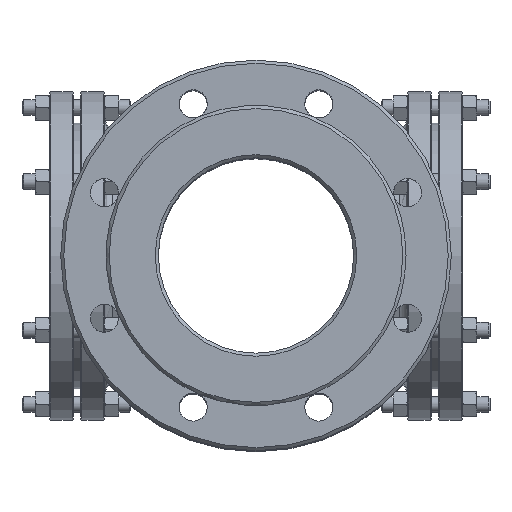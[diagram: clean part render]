
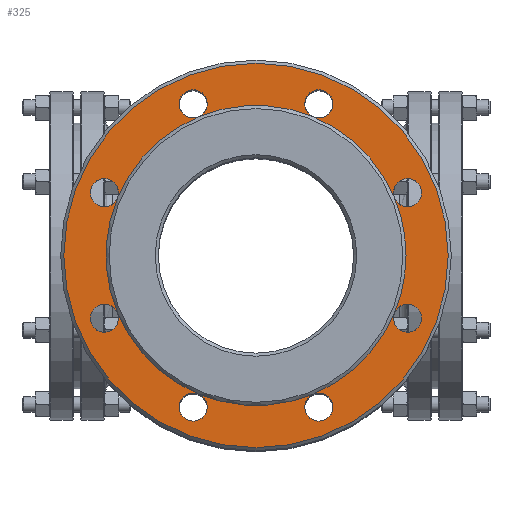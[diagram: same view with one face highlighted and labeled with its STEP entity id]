
A CAD part, top view. The second image highlights one B-rep face of the part: STEP entity #325.
In plain terms, the highlighted planar face has unit normal (0, 0, 1).
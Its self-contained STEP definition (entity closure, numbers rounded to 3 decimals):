
#325=ADVANCED_FACE('',(#3280,#3282,#3284,#3286,#3288,#3290,#3292,#3294,#3296,#3298),
#3300,.T.);
#3280=FACE_BOUND('',#3281,.T.);
#3281=EDGE_LOOP('',(#10412));
#3282=FACE_BOUND('',#3283,.T.);
#3283=EDGE_LOOP('',(#10413));
#3284=FACE_BOUND('',#3285,.T.);
#3285=EDGE_LOOP('',(#10414,#10415));
#3286=FACE_BOUND('',#3287,.T.);
#3287=EDGE_LOOP('',(#10416,#10417,#10418,#10419,#10420,#10421,#10422,#10423));
#3288=FACE_BOUND('',#3289,.T.);
#3289=EDGE_LOOP('',(#10424,#10425));
#3290=FACE_BOUND('',#3291,.T.);
#3291=EDGE_LOOP('',(#10426,#10427));
#3292=FACE_BOUND('',#3293,.T.);
#3293=EDGE_LOOP('',(#10428,#10429));
#3294=FACE_BOUND('',#3295,.T.);
#3295=EDGE_LOOP('',(#10430,#10431));
#3296=FACE_BOUND('',#3297,.T.);
#3297=EDGE_LOOP('',(#10432,#10433));
#3298=FACE_BOUND('',#3299,.T.);
#3299=EDGE_LOOP('',(#10434,#10435));
#3300=PLANE('',#3301);
#3301=AXIS2_PLACEMENT_3D('',#3302,#3303,#3304);
#3302=CARTESIAN_POINT('',(0.,0.,198.));
#3303=DIRECTION('',(0.,0.,1.));
#3304=DIRECTION('',(1.,0.,0.));
#10412=ORIENTED_EDGE('',*,*,#13539,.T.);
#10413=ORIENTED_EDGE('',*,*,#13540,.T.);
#10414=ORIENTED_EDGE('',*,*,#13541,.T.);
#10415=ORIENTED_EDGE('',*,*,#13542,.T.);
#10416=ORIENTED_EDGE('',*,*,#13455,.T.);
#10417=ORIENTED_EDGE('',*,*,#13454,.T.);
#10418=ORIENTED_EDGE('',*,*,#13453,.T.);
#10419=ORIENTED_EDGE('',*,*,#13452,.F.);
#10420=ORIENTED_EDGE('',*,*,#13451,.F.);
#10421=ORIENTED_EDGE('',*,*,#13450,.F.);
#10422=ORIENTED_EDGE('',*,*,#13457,.F.);
#10423=ORIENTED_EDGE('',*,*,#13456,.F.);
#10424=ORIENTED_EDGE('',*,*,#13543,.F.);
#10425=ORIENTED_EDGE('',*,*,#13544,.F.);
#10426=ORIENTED_EDGE('',*,*,#13545,.F.);
#10427=ORIENTED_EDGE('',*,*,#13546,.F.);
#10428=ORIENTED_EDGE('',*,*,#13547,.F.);
#10429=ORIENTED_EDGE('',*,*,#13548,.F.);
#10430=ORIENTED_EDGE('',*,*,#13549,.F.);
#10431=ORIENTED_EDGE('',*,*,#13550,.F.);
#10432=ORIENTED_EDGE('',*,*,#13551,.T.);
#10433=ORIENTED_EDGE('',*,*,#13552,.T.);
#10434=ORIENTED_EDGE('',*,*,#13553,.T.);
#10435=ORIENTED_EDGE('',*,*,#13554,.T.);
#13450=EDGE_CURVE('',#15110,#15111,#15112,.T.);
#13451=EDGE_CURVE('',#15111,#15113,#15114,.T.);
#13452=EDGE_CURVE('',#15113,#15115,#15116,.T.);
#13453=EDGE_CURVE('',#15117,#15115,#15118,.T.);
#13454=EDGE_CURVE('',#15119,#15117,#15120,.T.);
#13455=EDGE_CURVE('',#15121,#15119,#15122,.T.);
#13456=EDGE_CURVE('',#15121,#15123,#15124,.T.);
#13457=EDGE_CURVE('',#15123,#15110,#15125,.T.);
#13539=EDGE_CURVE('',#15252,#15252,#15253,.T.);
#13540=EDGE_CURVE('',#15254,#15254,#15255,.T.);
#13541=EDGE_CURVE('',#15123,#15256,#15257,.T.);
#13542=EDGE_CURVE('',#15256,#15123,#15258,.T.);
#13543=EDGE_CURVE('',#15259,#15121,#15260,.T.);
#13544=EDGE_CURVE('',#15121,#15259,#15261,.T.);
#13545=EDGE_CURVE('',#15262,#15119,#15263,.T.);
#13546=EDGE_CURVE('',#15119,#15262,#15264,.T.);
#13547=EDGE_CURVE('',#15265,#15117,#15266,.T.);
#13548=EDGE_CURVE('',#15117,#15265,#15267,.T.);
#13549=EDGE_CURVE('',#15268,#15115,#15269,.T.);
#13550=EDGE_CURVE('',#15115,#15268,#15270,.T.);
#13551=EDGE_CURVE('',#15113,#15271,#15272,.T.);
#13552=EDGE_CURVE('',#15271,#15113,#15273,.T.);
#13553=EDGE_CURVE('',#15111,#15274,#15275,.T.);
#13554=EDGE_CURVE('',#15274,#15111,#15276,.T.);
#15110=VERTEX_POINT('',#19327);
#15111=VERTEX_POINT('',#19328);
#15112=CIRCLE('',#19329,96.);
#15113=VERTEX_POINT('',#19333);
#15114=CIRCLE('',#19334,96.);
#15115=VERTEX_POINT('',#19338);
#15116=CIRCLE('',#19339,96.);
#15117=VERTEX_POINT('',#19343);
#15118=CIRCLE('',#19344,96.);
#15119=VERTEX_POINT('',#19348);
#15120=CIRCLE('',#19349,96.);
#15121=VERTEX_POINT('',#19353);
#15122=CIRCLE('',#19354,96.);
#15123=VERTEX_POINT('',#19358);
#15124=CIRCLE('',#19359,96.);
#15125=CIRCLE('',#19363,96.);
#15252=VERTEX_POINT('',#21104);
#15253=CIRCLE('',#21105,123.);
#15254=VERTEX_POINT('',#21109);
#15255=CIRCLE('',#21110,9.);
#15256=VERTEX_POINT('',#21114);
#15257=CIRCLE('',#21115,9.);
#15258=CIRCLE('',#21119,9.);
#15259=VERTEX_POINT('',#21123);
#15260=CIRCLE('',#21124,9.);
#15261=CIRCLE('',#21128,9.);
#15262=VERTEX_POINT('',#21132);
#15263=CIRCLE('',#21133,9.);
#15264=CIRCLE('',#21137,9.);
#15265=VERTEX_POINT('',#21141);
#15266=CIRCLE('',#21142,9.);
#15267=CIRCLE('',#21146,9.);
#15268=VERTEX_POINT('',#21150);
#15269=CIRCLE('',#21151,9.);
#15270=CIRCLE('',#21155,9.);
#15271=VERTEX_POINT('',#21159);
#15272=CIRCLE('',#21160,9.);
#15273=CIRCLE('',#21164,9.);
#15274=VERTEX_POINT('',#21168);
#15275=CIRCLE('',#21169,9.);
#15276=CIRCLE('',#21173,9.);
#19327=CARTESIAN_POINT('',(96.,0.,198.));
#19328=CARTESIAN_POINT('',(88.692,36.738,198.));
#19329=AXIS2_PLACEMENT_3D('',#19330,#19331,#19332);
#19330=CARTESIAN_POINT('',(0.,0.,198.));
#19331=DIRECTION('',(0.,0.,1.));
#19332=DIRECTION('',(1.,0.,0.));
#19333=CARTESIAN_POINT('',(36.738,88.692,198.));
#19334=AXIS2_PLACEMENT_3D('',#19335,#19336,#19337);
#19335=CARTESIAN_POINT('',(0.,0.,198.));
#19336=DIRECTION('',(0.,0.,1.));
#19337=DIRECTION('',(0.924,0.383,0.));
#19338=CARTESIAN_POINT('',(-36.738,88.692,198.));
#19339=AXIS2_PLACEMENT_3D('',#19340,#19341,#19342);
#19340=CARTESIAN_POINT('',(0.,0.,198.));
#19341=DIRECTION('',(0.,0.,1.));
#19342=DIRECTION('',(0.383,0.924,0.));
#19343=CARTESIAN_POINT('',(-88.692,36.738,198.));
#19344=AXIS2_PLACEMENT_3D('',#19345,#19346,#19347);
#19345=CARTESIAN_POINT('',(0.,0.,198.));
#19346=DIRECTION('',(0.,0.,-1.));
#19347=DIRECTION('',(-0.924,0.383,0.));
#19348=CARTESIAN_POINT('',(-88.692,-36.738,198.));
#19349=AXIS2_PLACEMENT_3D('',#19350,#19351,#19352);
#19350=CARTESIAN_POINT('',(0.,0.,198.));
#19351=DIRECTION('',(0.,0.,-1.));
#19352=DIRECTION('',(-0.924,-0.383,0.));
#19353=CARTESIAN_POINT('',(-36.738,-88.692,198.));
#19354=AXIS2_PLACEMENT_3D('',#19355,#19356,#19357);
#19355=CARTESIAN_POINT('',(0.,0.,198.));
#19356=DIRECTION('',(0.,0.,-1.));
#19357=DIRECTION('',(-0.383,-0.924,0.));
#19358=CARTESIAN_POINT('',(36.738,-88.692,198.));
#19359=AXIS2_PLACEMENT_3D('',#19360,#19361,#19362);
#19360=CARTESIAN_POINT('',(0.,0.,198.));
#19361=DIRECTION('',(0.,0.,1.));
#19362=DIRECTION('',(-0.383,-0.924,0.));
#19363=AXIS2_PLACEMENT_3D('',#19364,#19365,#19366);
#19364=CARTESIAN_POINT('',(0.,0.,198.));
#19365=DIRECTION('',(0.,0.,1.));
#19366=DIRECTION('',(0.383,-0.924,0.));
#21104=CARTESIAN_POINT('',(123.,0.,198.));
#21105=AXIS2_PLACEMENT_3D('',#21106,#21107,#21108);
#21106=CARTESIAN_POINT('',(0.,0.,198.));
#21107=DIRECTION('',(0.,0.,1.));
#21108=DIRECTION('',(1.,0.,0.));
#21109=CARTESIAN_POINT('',(106.007,-40.182,198.));
#21110=AXIS2_PLACEMENT_3D('',#21111,#21112,#21113);
#21111=CARTESIAN_POINT('',(97.007,-40.182,198.));
#21112=DIRECTION('',(0.,0.,-1.));
#21113=DIRECTION('',(1.,0.,0.));
#21114=CARTESIAN_POINT('',(49.182,-97.007,198.));
#21115=AXIS2_PLACEMENT_3D('',#21116,#21117,#21118);
#21116=CARTESIAN_POINT('',(40.182,-97.007,198.));
#21117=DIRECTION('',(0.,0.,-1.));
#21118=DIRECTION('',(-0.383,0.924,0.));
#21119=AXIS2_PLACEMENT_3D('',#21120,#21121,#21122);
#21120=CARTESIAN_POINT('',(40.182,-97.007,198.));
#21121=DIRECTION('',(0.,0.,-1.));
#21122=DIRECTION('',(1.,0.,0.));
#21123=CARTESIAN_POINT('',(-49.182,-97.007,198.));
#21124=AXIS2_PLACEMENT_3D('',#21125,#21126,#21127);
#21125=CARTESIAN_POINT('',(-40.182,-97.007,198.));
#21126=DIRECTION('',(0.,0.,1.));
#21127=DIRECTION('',(-1.,0.,0.));
#21128=AXIS2_PLACEMENT_3D('',#21129,#21130,#21131);
#21129=CARTESIAN_POINT('',(-40.182,-97.007,198.));
#21130=DIRECTION('',(0.,0.,1.));
#21131=DIRECTION('',(0.383,0.924,0.));
#21132=CARTESIAN_POINT('',(-106.007,-40.182,198.));
#21133=AXIS2_PLACEMENT_3D('',#21134,#21135,#21136);
#21134=CARTESIAN_POINT('',(-97.007,-40.182,198.));
#21135=DIRECTION('',(0.,0.,1.));
#21136=DIRECTION('',(-1.,0.,0.));
#21137=AXIS2_PLACEMENT_3D('',#21138,#21139,#21140);
#21138=CARTESIAN_POINT('',(-97.007,-40.182,198.));
#21139=DIRECTION('',(0.,0.,1.));
#21140=DIRECTION('',(0.924,0.383,0.));
#21141=CARTESIAN_POINT('',(-106.007,40.182,198.));
#21142=AXIS2_PLACEMENT_3D('',#21143,#21144,#21145);
#21143=CARTESIAN_POINT('',(-97.007,40.182,198.));
#21144=DIRECTION('',(0.,0.,1.));
#21145=DIRECTION('',(-1.,0.,0.));
#21146=AXIS2_PLACEMENT_3D('',#21147,#21148,#21149);
#21147=CARTESIAN_POINT('',(-97.007,40.182,198.));
#21148=DIRECTION('',(0.,0.,1.));
#21149=DIRECTION('',(0.924,-0.383,0.));
#21150=CARTESIAN_POINT('',(-49.182,97.007,198.));
#21151=AXIS2_PLACEMENT_3D('',#21152,#21153,#21154);
#21152=CARTESIAN_POINT('',(-40.182,97.007,198.));
#21153=DIRECTION('',(0.,0.,1.));
#21154=DIRECTION('',(-1.,0.,0.));
#21155=AXIS2_PLACEMENT_3D('',#21156,#21157,#21158);
#21156=CARTESIAN_POINT('',(-40.182,97.007,198.));
#21157=DIRECTION('',(0.,0.,1.));
#21158=DIRECTION('',(0.383,-0.924,0.));
#21159=CARTESIAN_POINT('',(49.182,97.007,198.));
#21160=AXIS2_PLACEMENT_3D('',#21161,#21162,#21163);
#21161=CARTESIAN_POINT('',(40.182,97.007,198.));
#21162=DIRECTION('',(0.,0.,-1.));
#21163=DIRECTION('',(-0.383,-0.924,0.));
#21164=AXIS2_PLACEMENT_3D('',#21165,#21166,#21167);
#21165=CARTESIAN_POINT('',(40.182,97.007,198.));
#21166=DIRECTION('',(0.,0.,-1.));
#21167=DIRECTION('',(1.,0.,0.));
#21168=CARTESIAN_POINT('',(106.007,40.182,198.));
#21169=AXIS2_PLACEMENT_3D('',#21170,#21171,#21172);
#21170=CARTESIAN_POINT('',(97.007,40.182,198.));
#21171=DIRECTION('',(0.,0.,-1.));
#21172=DIRECTION('',(-0.924,-0.383,0.));
#21173=AXIS2_PLACEMENT_3D('',#21174,#21175,#21176);
#21174=CARTESIAN_POINT('',(97.007,40.182,198.));
#21175=DIRECTION('',(0.,0.,-1.));
#21176=DIRECTION('',(1.,0.,0.));
